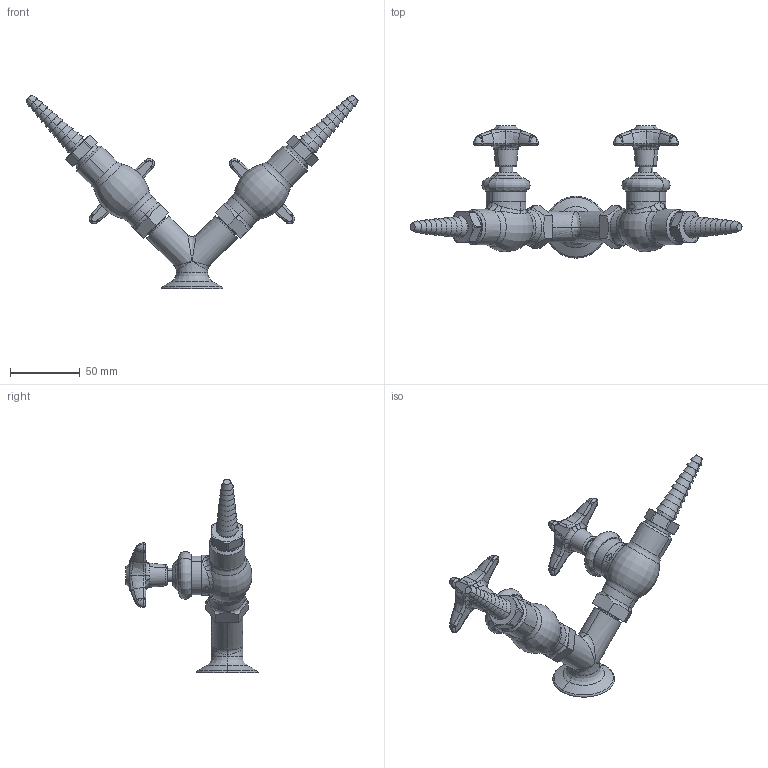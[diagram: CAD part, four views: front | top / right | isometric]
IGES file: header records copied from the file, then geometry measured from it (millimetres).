
Start section:  PTC IGES file: LWV1-A14-60.igs
Global section: file name: LWV1-A14-60.igs; native system: Creo Parametric by PTC Inc.; preprocessor: 2014500; author: usch_engrender; organization: Unknown; date: 20151112.100716; units: inch
Bounding box: 238.57 x 94.97 x 138.97 mm (x, y, z)
Volume: 208833.2 mm3; surface area: 43467.9 mm2
Topology: 1 solids, 5 shells, 545 faces, 1203 edges, 708 vertices
Faces by surface type: bspline 353, revolution 192
